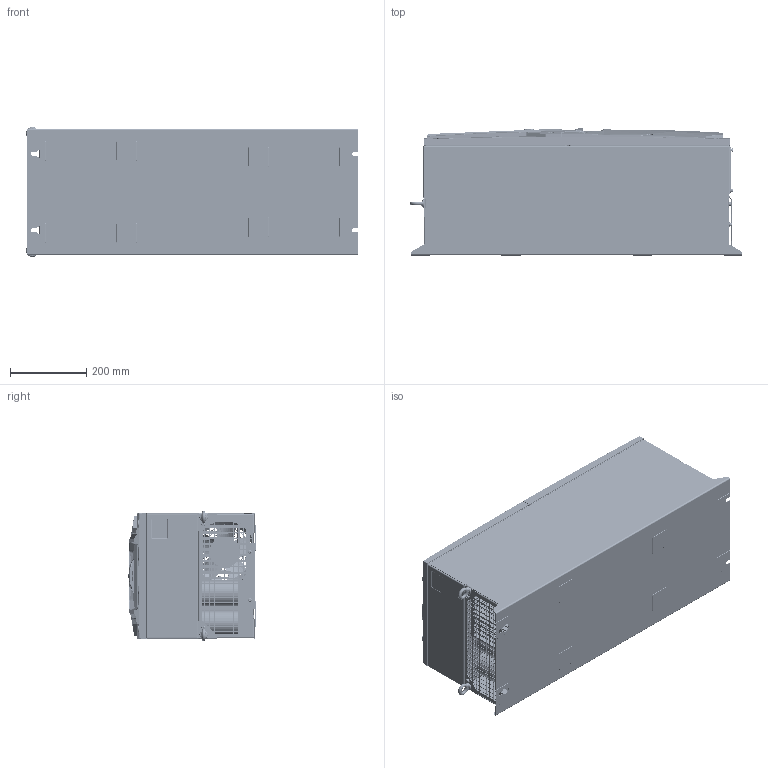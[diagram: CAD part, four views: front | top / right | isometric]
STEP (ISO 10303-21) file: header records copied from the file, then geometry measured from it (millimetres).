
FILE_DESCRIPTION (( 'STEP AP203' ), '1' );
FILE_NAME ('P2.IP55.S6.TFT - Closed.STEP', '2021-12-14T16:57:35', ( '' ), ( '' ), 'SwSTEP 2.0', 'SolidWorks 2021', '' );
FILE_SCHEMA (( 'CONFIG_CONTROL_DESIGN' ));
Products named in the file (1): P2.IP55.S6.TFT - Closed
Bounding box: 868.1 x 332.31 x 339.75 mm (x, y, z)
Volume: 56657961.5 mm3; surface area: 4748790.8 mm2
Topology: 1 solids, 1 shells, 5787 faces, 15621 edges, 10003 vertices
Faces by surface type: plane 2903, cylinder 1117, bspline 905, torus 479, cone 321, sphere 62
Entity records: 266396 total; most frequent: CARTESIAN_POINT 128156, ORIENTED_EDGE 31102, DIRECTION 25165, EDGE_CURVE 15551, VERTEX_POINT 10001, AXIS2_PLACEMENT_3D 8412, VECTOR 8341, LINE 8341
